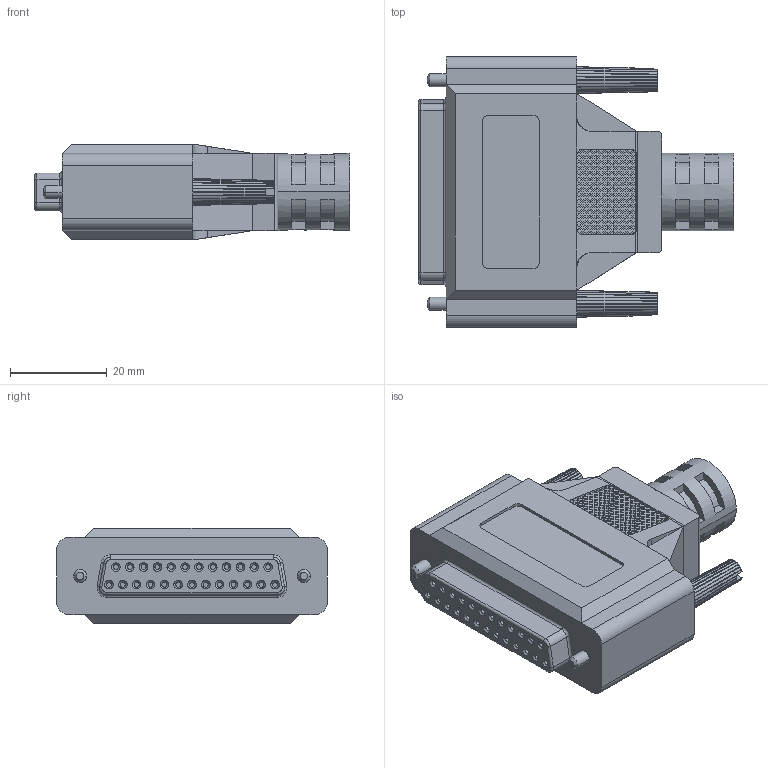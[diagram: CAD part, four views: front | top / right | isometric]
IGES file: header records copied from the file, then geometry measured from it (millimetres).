
Start section:  PTC IGES file: cu_dsub_cable_backshell_25_pos.igs
Global section: file name: cu_dsub_cable_backshell_25_pos.igs; native system: Pro/ENGINEER by Parametric Technology Corporation; preprocessor: 2006080; author: jpearson; organization: Unknown; date: 070622.170451; units: inch
Bounding box: 65.28 x 56.13 x 19.86 mm (x, y, z)
Surface area: 10546.6 mm2 (no closed solid volume)
Topology: 0 solids, 0 shells, 2381 faces, 11780 edges, 11760 vertices
Faces by surface type: bspline 2165, revolution 216
